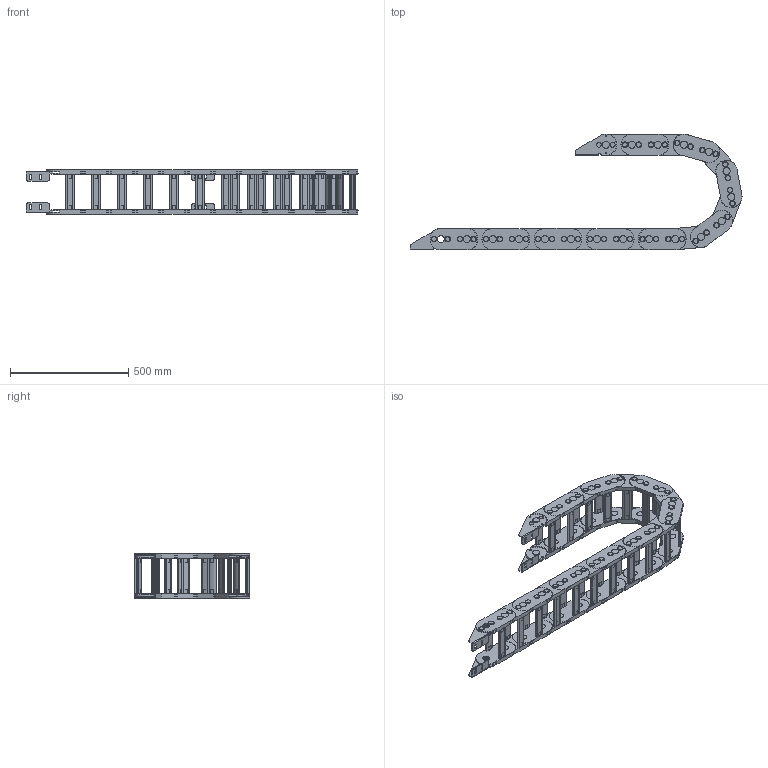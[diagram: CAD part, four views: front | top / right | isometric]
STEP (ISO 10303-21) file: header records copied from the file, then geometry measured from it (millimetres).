
FILE_DESCRIPTION((''),'2;1');
FILE_NAME('GD-65-R200_ASM','2022-07-07T09:22:45',('admin'),(''),'CREO PARAMETRIC BY PTC INC, 2021164','CREO PARAMETRIC BY PTC INC, 2021164','');
FILE_SCHEMA(('CONFIG_CONTROL_DESIGN','GEOMETRIC_VALIDATION_PROPERTIES_MIM'));
Length unit declared in the file: millimetre
Products named in the file (5): 65-R150; 65-R150-1; TLT-1; TLT-2; GD-65-R200_ASM
Assembly tree (20 placements, depth 2):
  GD-65-R200_ASM
    65-R150  x9
    65-R150-1  x9
    TLT-1
    TLT-2
Bounding box: 1402 x 488.59 x 190.3 mm (x, y, z)
Volume: 8482110.5 mm3; surface area: 2559820.5 mm2
Topology: 76 solids, 76 shells, 2332 faces, 6102 edges, 4146 vertices
Faces by surface type: cylinder 1116, plane 1036, cone 180
Entity records: 16191 total; most frequent: DIRECTION 2486, CARTESIAN_POINT 2388, ORIENTED_EDGE 2220, EDGE_CURVE 1110, AXIS2_PLACEMENT_3D 951, VERTEX_POINT 754, PRESENTATION_STYLE_ASSIGNMENT 634, STYLED_ITEM 633
